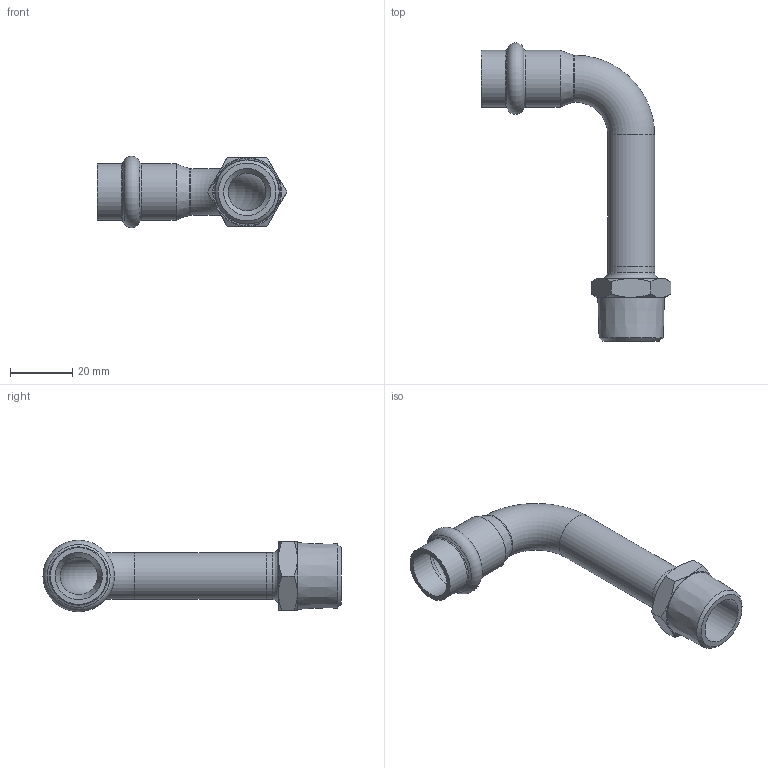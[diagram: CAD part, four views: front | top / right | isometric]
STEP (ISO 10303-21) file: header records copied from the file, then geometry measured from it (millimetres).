
FILE_DESCRIPTION((''),'2;1');
FILE_NAME('G:\Nirosan-Schmiedefeld\Technics\CAD\Bauteile VA\015\69002AG1512(1).stp','2011-10-26T11:42:19',('herberg'),(''),'Autodesk Inventor 2009','Autodesk Inventor 2009','');
FILE_SCHEMA(('AUTOMOTIVE_DESIGN { 1 0 10303 214 1 1 1 1 }'));
Length unit declared in the file: millimetre
Products named in the file (3): 69002AG1512(1); 69001A15(1); AG1512(1)
Assembly tree (2 placements, depth 2):
  69002AG1512(1)
    69001A15(1)
    AG1512(1)
Bounding box: 60.7 x 95.44 x 22.89 mm (x, y, z)
Volume: 11361.8 mm3; surface area: 12618.3 mm2
Topology: 2 solids, 2 shells, 51 faces, 106 edges, 61 vertices
Faces by surface type: cone 18, plane 12, cylinder 9, bspline 7, torus 5
Full cylindrical faces by diameter (mm): 12 x2, 15 x3, 15.15 x2, 18.15 x2
Entity records: 1455 total; most frequent: CARTESIAN_POINT 497, DIRECTION 192, ORIENTED_EDGE 148, AXIS2_PLACEMENT_3D 93, EDGE_LOOP 84, EDGE_CURVE 74, VERTEX_POINT 56, FACE_OUTER_BOUND 51
